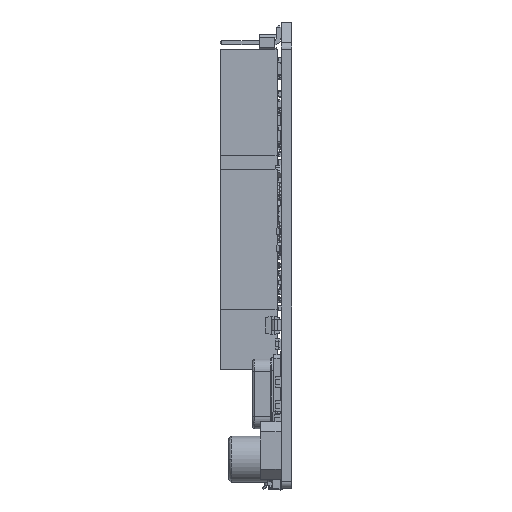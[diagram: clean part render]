
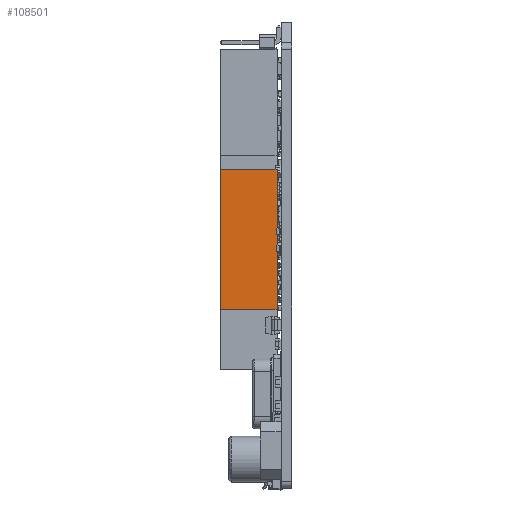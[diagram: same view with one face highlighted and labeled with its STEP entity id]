
A CAD part, left-side view. The second image highlights one B-rep face of the part: STEP entity #108501.
In plain terms, the highlighted planar face has unit normal (-1, 0, 0) as drawn and (0, -1, 0) by its records, which use the part's own axes.
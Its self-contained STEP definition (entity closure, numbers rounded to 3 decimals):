
#3742 = VERTEX_POINT ( 'NONE', #30631 ) ;
#6545 = DIRECTION ( 'NONE',  ( 1., 0., 0. ) ) ;
#10307 = ORIENTED_EDGE ( 'NONE', *, *, #71987, .F. ) ;
#15239 = EDGE_CURVE ( 'NONE', #3742, #42742, #72868, .T. ) ;
#17174 = DIRECTION ( 'NONE',  ( 0., 0., 1. ) ) ;
#20520 = CARTESIAN_POINT ( 'NONE',  ( -10.41, -1.25, 0.6 ) ) ;
#21534 = LINE ( 'NONE', #72419, #69397 ) ;
#30631 = CARTESIAN_POINT ( 'NONE',  ( 10.41, -1.25, 0.6 ) ) ;
#35479 = EDGE_CURVE ( 'NONE', #79033, #59865, #99175, .T. ) ;
#41152 = CARTESIAN_POINT ( 'NONE',  ( 10.41, -1.25, 9. ) ) ;
#42541 = VECTOR ( 'NONE', #110153, 1000. ) ;
#42742 = VERTEX_POINT ( 'NONE', #84265 ) ;
#42830 = CARTESIAN_POINT ( 'NONE',  ( 10.41, -1.25, 9. ) ) ;
#45533 = VECTOR ( 'NONE', #6545, 1000. ) ;
#51439 = FACE_OUTER_BOUND ( 'NONE', #120980, .T. ) ;
#59865 = VERTEX_POINT ( 'NONE', #41152 ) ;
#69397 = VECTOR ( 'NONE', #128147, 1000. ) ;
#71987 = EDGE_CURVE ( 'NONE', #59865, #3742, #135954, .T. ) ;
#72419 = CARTESIAN_POINT ( 'NONE',  ( -10.41, -1.25, 9. ) ) ;
#72868 = LINE ( 'NONE', #20520, #42541 ) ;
#79033 = VERTEX_POINT ( 'NONE', #93744 ) ;
#84265 = CARTESIAN_POINT ( 'NONE',  ( -10.41, -1.25, 0.6 ) ) ;
#91058 = ORIENTED_EDGE ( 'NONE', *, *, #96057, .F. ) ;
#93744 = CARTESIAN_POINT ( 'NONE',  ( -10.41, -1.25, 9. ) ) ;
#96057 = EDGE_CURVE ( 'NONE', #42742, #79033, #21534, .T. ) ;
#97141 = PLANE ( 'NONE',  #118142 ) ;
#97503 = CARTESIAN_POINT ( 'NONE',  ( -10.41, -1.25, 9. ) ) ;
#99175 = LINE ( 'NONE', #97503, #45533 ) ;
#101733 = VECTOR ( 'NONE', #113379, 1000. ) ;
#108501 = ADVANCED_FACE ( 'NONE', ( #51439 ), #97141, .F. ) ;
#110153 = DIRECTION ( 'NONE',  ( -1., 0., 0. ) ) ;
#113379 = DIRECTION ( 'NONE',  ( 0., 0., -1. ) ) ;
#118142 = AXIS2_PLACEMENT_3D ( 'NONE', #132331, #142327, #17174 ) ;
#120980 = EDGE_LOOP ( 'NONE', ( #10307, #131618, #91058, #146734 ) ) ;
#128147 = DIRECTION ( 'NONE',  ( 0., 0., 1. ) ) ;
#131618 = ORIENTED_EDGE ( 'NONE', *, *, #35479, .F. ) ;
#132331 = CARTESIAN_POINT ( 'NONE',  ( -10.41, -1.25, 9. ) ) ;
#135954 = LINE ( 'NONE', #42830, #101733 ) ;
#142327 = DIRECTION ( 'NONE',  ( 0., 1., 0. ) ) ;
#146734 = ORIENTED_EDGE ( 'NONE', *, *, #15239, .F. ) ;
